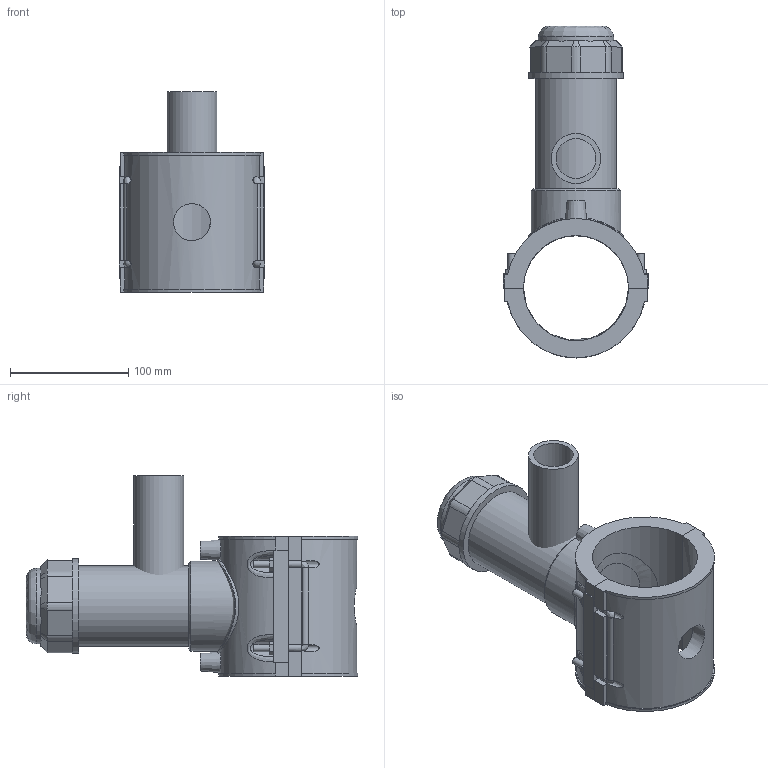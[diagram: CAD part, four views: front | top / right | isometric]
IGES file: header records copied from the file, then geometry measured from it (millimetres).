
Global section: file name: 5963BBP3030013.ipt; native system: Autodesk Inventor 2019; preprocessor: unknown; author: KIM; date: 20210830.101520; units: inch
Bounding box: 122.9 x 280.2 x 169.04 mm (x, y, z)
Volume: 967337.6 mm3; surface area: 205653.1 mm2
Topology: 3 solids, 3 shells, 204 faces, 526 edges, 343 vertices
Faces by surface type: plane 125, cylinder 37, revolution 21, cone 15, bspline 6
Full cylindrical faces by diameter (mm): 4 x2, 6 x8, 42.1 x1, 63.864 x1, 67.856 x1, 75.839 x1, 79.83 x1
